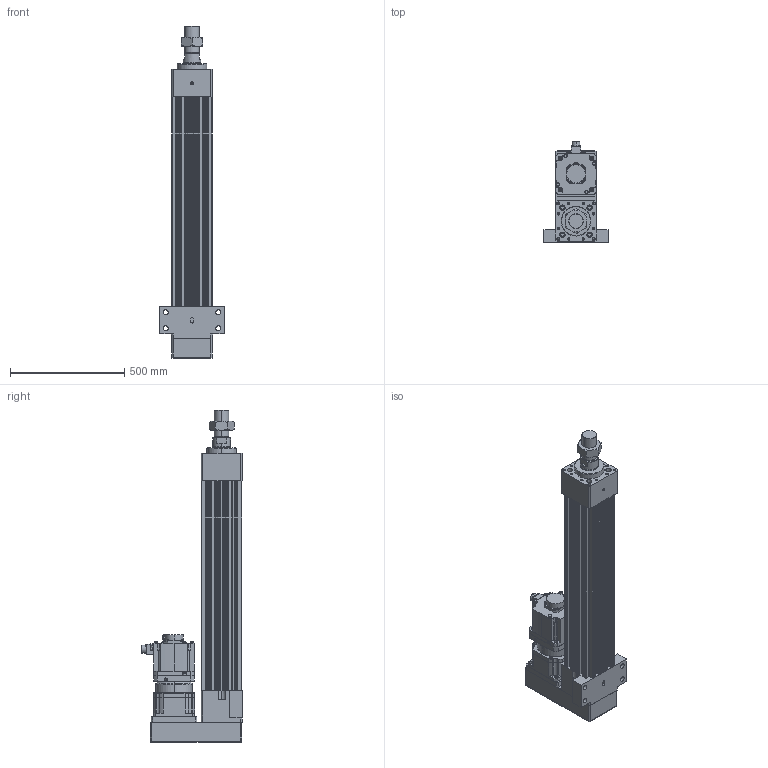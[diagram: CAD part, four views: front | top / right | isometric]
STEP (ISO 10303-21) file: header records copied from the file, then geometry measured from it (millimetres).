
FILE_DESCRIPTION (( 'STEP AP203' ), '1' );
FILE_NAME ('HES180HS-P600-W050G00-M-FFC.STEP', '2023-02-01T07:27:49', ( 'tms' ), ( '' ), 'SwSTEP 2.0', 'SolidWorks 2013', '' );
FILE_SCHEMA (( 'CONFIG_CONTROL_DESIGN' ));
Length unit declared in the file: millimetre
Products named in the file (9): AB1801; M64X2.0P; HG-SR502; P1301600001; AB180-003[HG-SR702B]; HES180 ROD M ST600; P0403600401; HES180-P600-G180-FFC; HES180HS-P600-W050G00-M-FFC
Assembly tree (8 placements, depth 3):
  HES180HS-P600-W050G00-M-FFC
    HES180-P600-G180-FFC
    HES180 ROD M ST600
    M64X2.0P
    AB180-003[HG-SR702B]
      AB1801
      P1301600001
      P0403600401
    HG-SR502
Bounding box: 280 x 438.85 x 1452 mm (x, y, z)
Volume: 31319798.4 mm3; surface area: 2780958 mm2
Topology: 4 solids, 19 shells, 1474 faces, 3821 edges, 2463 vertices
Faces by surface type: cylinder 686, plane 553, cone 168, bspline 63, torus 4
Entity records: 53682 total; most frequent: CARTESIAN_POINT 16162, DIRECTION 7905, ORIENTED_EDGE 7498, EDGE_CURVE 3773, AXIS2_PLACEMENT_3D 2986, VERTEX_POINT 2463, VECTOR 1933, LINE 1933
